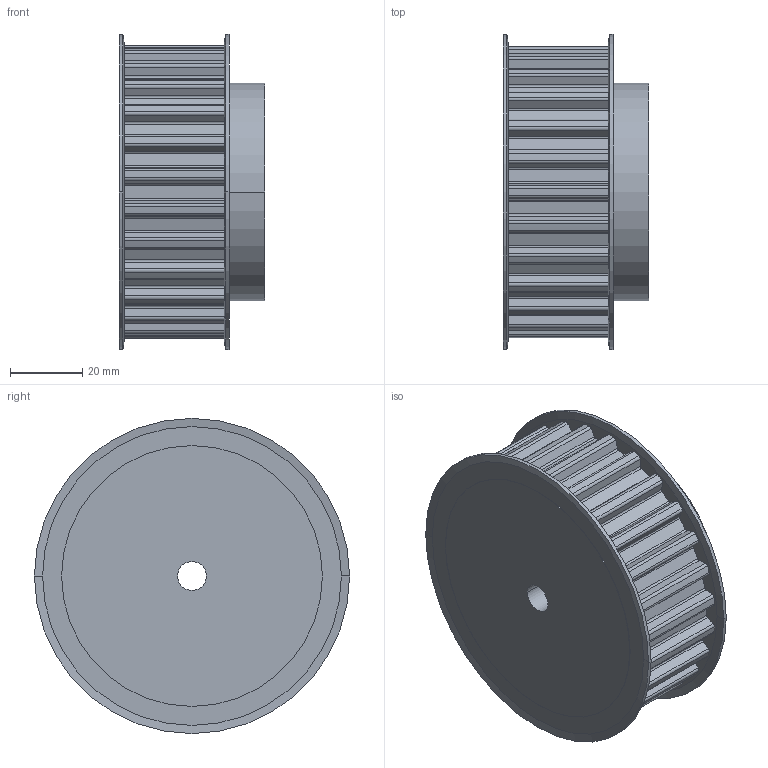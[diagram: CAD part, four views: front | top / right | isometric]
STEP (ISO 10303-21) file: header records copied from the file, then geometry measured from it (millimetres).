
FILE_DESCRIPTION( ( '' ), '1' );
FILE_NAME( 'C:/Users/Stangenbergd/Documents/CAD_Step/1/16432600.stp', '2021-10-19T08:55:36', ( '' ), ( '' ), ' ', ' ', ' ' );
FILE_SCHEMA( ( 'CONFIG_CONTROL_DESIGN' ) );
Length unit declared in the file: millimetre
Products named in the file (1): 1
Bounding box: 40.17 x 87 x 87 mm (x, y, z)
Volume: 168621 mm3; surface area: 27788.3 mm2
Topology: 1 solids, 1 shells, 235 faces, 676 edges, 448 vertices
Faces by surface type: cylinder 142, plane 85, cone 8
Entity records: 7866 total; most frequent: DIRECTION 1440, CARTESIAN_POINT 1360, ORIENTED_EDGE 1352, EDGE_CURVE 676, AXIS2_PLACEMENT_3D 528, VERTEX_POINT 448, LINE 384, VECTOR 384
